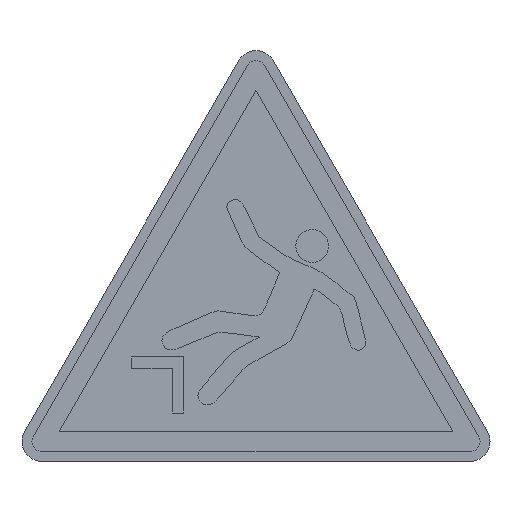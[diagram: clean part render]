
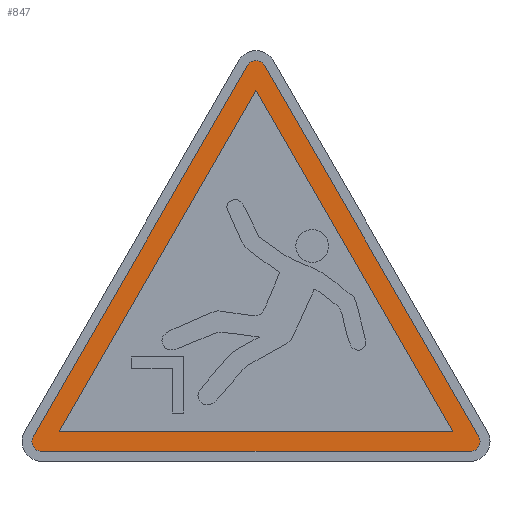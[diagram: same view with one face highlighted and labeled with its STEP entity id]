
A CAD part, top view. The second image highlights one B-rep face of the part: STEP entity #847.
In plain terms, the highlighted planar face has unit normal (0, 0, 1).
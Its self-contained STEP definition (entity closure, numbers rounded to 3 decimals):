
#10 = CARTESIAN_POINT ( 'NONE',  ( 19.804, 3., 0.22 ) ) ;
#17 = CARTESIAN_POINT ( 'NONE',  ( -19.804, 3., 0.22 ) ) ;
#35 = CARTESIAN_POINT ( 'NONE',  ( -21.536, 1., 0.22 ) ) ;
#49 = CARTESIAN_POINT ( 'NONE',  ( 0., 39.301, 0.22 ) ) ;
#204 = DIRECTION ( 'NONE',  ( 1., 0., 0. ) ) ;
#207 = AXIS2_PLACEMENT_3D ( 'NONE', #49, #779, #767 ) ;
#211 = CARTESIAN_POINT ( 'NONE',  ( 0., 39.301, 0.22 ) ) ;
#241 = DIRECTION ( 'NONE',  ( 0., 0., 1. ) ) ;
#248 = ORIENTED_EDGE ( 'NONE', *, *, #1869, .F. ) ;
#264 = EDGE_CURVE ( 'NONE', #615, #1028, #1118, .T. ) ;
#277 = VECTOR ( 'NONE', #488, 1000. ) ;
#281 = VERTEX_POINT ( 'NONE', #656 ) ;
#288 = DIRECTION ( 'NONE',  ( -0.5, 0.866, 0. ) ) ;
#389 = CARTESIAN_POINT ( 'NONE',  ( 21.536, 1., 0.22 ) ) ;
#390 = CIRCLE ( 'NONE', #207, 1. ) ;
#488 = DIRECTION ( 'NONE',  ( 1., 0., 0. ) ) ;
#508 = DIRECTION ( 'NONE',  ( -0.5, -0.866, 0. ) ) ;
#540 = AXIS2_PLACEMENT_3D ( 'NONE', #1366, #928, #204 ) ;
#549 = CARTESIAN_POINT ( 'NONE',  ( -19.804, 3., 0.22 ) ) ;
#556 = CARTESIAN_POINT ( 'NONE',  ( -22.536, 2., 0.22 ) ) ;
#561 = DIRECTION ( 'NONE',  ( -0.5, -0.866, 0. ) ) ;
#598 = ORIENTED_EDGE ( 'NONE', *, *, #1911, .T. ) ;
#615 = VERTEX_POINT ( 'NONE', #556 ) ;
#656 = CARTESIAN_POINT ( 'NONE',  ( 0., 37.301, 0.22 ) ) ;
#695 = ORIENTED_EDGE ( 'NONE', *, *, #1861, .F. ) ;
#701 = CARTESIAN_POINT ( 'NONE',  ( 22.402, 2.5, 0.22 ) ) ;
#705 = LINE ( 'NONE', #1284, #990 ) ;
#708 = ORIENTED_EDGE ( 'NONE', *, *, #264, .T. ) ;
#730 = ORIENTED_EDGE ( 'NONE', *, *, #1247, .T. ) ;
#767 = DIRECTION ( 'NONE',  ( 1., 0., 0. ) ) ;
#773 = VECTOR ( 'NONE', #508, 1000. ) ;
#779 = DIRECTION ( 'NONE',  ( 0., 0., 1. ) ) ;
#790 = CIRCLE ( 'NONE', #1856, 1. ) ;
#816 = AXIS2_PLACEMENT_3D ( 'NONE', #211, #241, #1224 ) ;
#845 = VERTEX_POINT ( 'NONE', #17 ) ;
#847 = ADVANCED_FACE ( 'NONE', ( #1219, #1812 ), #1187, .T. ) ;
#848 = EDGE_CURVE ( 'NONE', #1048, #983, #1811, .T. ) ;
#856 = VERTEX_POINT ( 'NONE', #1092 ) ;
#911 = EDGE_LOOP ( 'NONE', ( #1555, #730, #1573, #708, #994, #912, #598 ) ) ;
#912 = ORIENTED_EDGE ( 'NONE', *, *, #848, .T. ) ;
#928 = DIRECTION ( 'NONE',  ( 0., 0., 1. ) ) ;
#960 = VECTOR ( 'NONE', #1132, 1000. ) ;
#964 = DIRECTION ( 'NONE',  ( 1., 0., 0. ) ) ;
#970 = DIRECTION ( 'NONE',  ( 1., 0., 0. ) ) ;
#979 = DIRECTION ( 'NONE',  ( -0.5, 0.866, 0. ) ) ;
#983 = VERTEX_POINT ( 'NONE', #701 ) ;
#990 = VECTOR ( 'NONE', #979, 1000. ) ;
#994 = ORIENTED_EDGE ( 'NONE', *, *, #1609, .T. ) ;
#1026 = CARTESIAN_POINT ( 'NONE',  ( 0., 37.301, 0.22 ) ) ;
#1028 = VERTEX_POINT ( 'NONE', #1728 ) ;
#1048 = VERTEX_POINT ( 'NONE', #389 ) ;
#1067 = LINE ( 'NONE', #10, #1229 ) ;
#1081 = LINE ( 'NONE', #1831, #773 ) ;
#1092 = CARTESIAN_POINT ( 'NONE',  ( 19.804, 3., 0.22 ) ) ;
#1117 = EDGE_CURVE ( 'NONE', #1889, #1309, #390, .T. ) ;
#1118 = CIRCLE ( 'NONE', #540, 1. ) ;
#1132 = DIRECTION ( 'NONE',  ( 1., 0., 0. ) ) ;
#1157 = LINE ( 'NONE', #549, #960 ) ;
#1181 = CARTESIAN_POINT ( 'NONE',  ( -22.402, 2.5, 0.22 ) ) ;
#1187 = PLANE ( 'NONE',  #816 ) ;
#1219 = FACE_OUTER_BOUND ( 'NONE', #911, .T. ) ;
#1224 = DIRECTION ( 'NONE',  ( 1., 0., 0. ) ) ;
#1229 = VECTOR ( 'NONE', #288, 1000. ) ;
#1247 = EDGE_CURVE ( 'NONE', #1309, #1409, #1081, .T. ) ;
#1284 = CARTESIAN_POINT ( 'NONE',  ( 22.402, 2.5, 0.22 ) ) ;
#1309 = VERTEX_POINT ( 'NONE', #1428 ) ;
#1317 = CARTESIAN_POINT ( 'NONE',  ( 0.866, 39.801, 0.22 ) ) ;
#1360 = VECTOR ( 'NONE', #561, 1000. ) ;
#1366 = CARTESIAN_POINT ( 'NONE',  ( -21.536, 2., 0.22 ) ) ;
#1375 = CARTESIAN_POINT ( 'NONE',  ( 21.536, 2., 0.22 ) ) ;
#1408 = CARTESIAN_POINT ( 'NONE',  ( -21.536, 2., 0.22 ) ) ;
#1409 = VERTEX_POINT ( 'NONE', #1181 ) ;
#1428 = CARTESIAN_POINT ( 'NONE',  ( -0.866, 39.801, 0.22 ) ) ;
#1452 = AXIS2_PLACEMENT_3D ( 'NONE', #1375, #1819, #964 ) ;
#1486 = LINE ( 'NONE', #35, #277 ) ;
#1492 = EDGE_CURVE ( 'NONE', #856, #281, #1067, .T. ) ;
#1555 = ORIENTED_EDGE ( 'NONE', *, *, #1117, .T. ) ;
#1573 = ORIENTED_EDGE ( 'NONE', *, *, #1733, .T. ) ;
#1605 = LINE ( 'NONE', #1026, #1360 ) ;
#1609 = EDGE_CURVE ( 'NONE', #1028, #1048, #1486, .T. ) ;
#1668 = DIRECTION ( 'NONE',  ( 0., 0., 1. ) ) ;
#1728 = CARTESIAN_POINT ( 'NONE',  ( -21.536, 1., 0.22 ) ) ;
#1733 = EDGE_CURVE ( 'NONE', #1409, #615, #790, .T. ) ;
#1811 = CIRCLE ( 'NONE', #1452, 1. ) ;
#1812 = FACE_BOUND ( 'NONE', #1867, .T. ) ;
#1819 = DIRECTION ( 'NONE',  ( 0., 0., 1. ) ) ;
#1831 = CARTESIAN_POINT ( 'NONE',  ( -0.866, 39.801, 0.22 ) ) ;
#1856 = AXIS2_PLACEMENT_3D ( 'NONE', #1408, #1668, #970 ) ;
#1861 = EDGE_CURVE ( 'NONE', #281, #845, #1605, .T. ) ;
#1867 = EDGE_LOOP ( 'NONE', ( #248, #695, #1905 ) ) ;
#1869 = EDGE_CURVE ( 'NONE', #845, #856, #1157, .T. ) ;
#1889 = VERTEX_POINT ( 'NONE', #1317 ) ;
#1905 = ORIENTED_EDGE ( 'NONE', *, *, #1492, .F. ) ;
#1911 = EDGE_CURVE ( 'NONE', #983, #1889, #705, .T. ) ;
